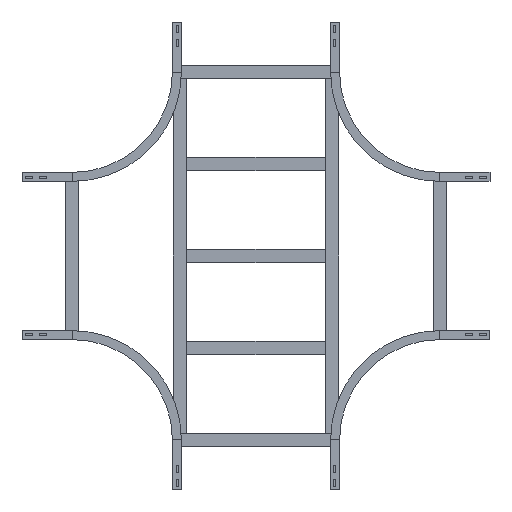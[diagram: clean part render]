
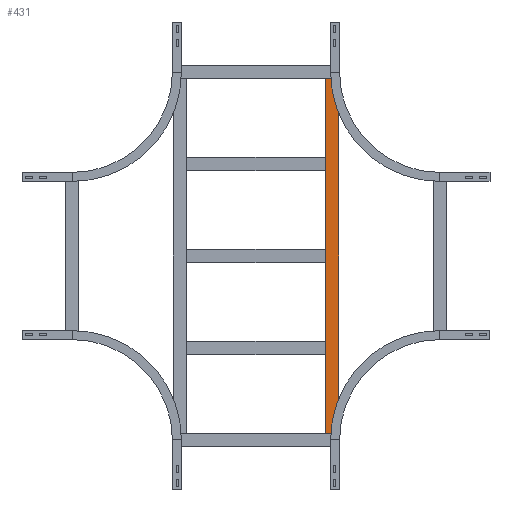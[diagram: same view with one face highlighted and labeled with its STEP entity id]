
A CAD part, front view. The second image highlights one B-rep face of the part: STEP entity #431.
In plain terms, the highlighted planar face has unit normal (0, -1, 0).
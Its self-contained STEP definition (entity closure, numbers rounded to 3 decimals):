
#50 = CARTESIAN_POINT ( 'NONE',  ( 529.75, 0., 20.25 ) ) ;
#107 = ORIENTED_EDGE ( 'NONE', *, *, #2169, .F. ) ;
#123 = CARTESIAN_POINT ( 'NONE',  ( -529.75, 0., 20.25 ) ) ;
#164 = CARTESIAN_POINT ( 'NONE',  ( -529.75, 0., 20.25 ) ) ;
#236 = DIRECTION ( 'NONE',  ( -1., 0., 0. ) ) ;
#335 = AXIS2_PLACEMENT_3D ( 'NONE', #527, #2269, #1939 ) ;
#405 = VERTEX_POINT ( 'NONE', #164 ) ;
#431 = ADVANCED_FACE ( 'NONE', ( #2463 ), #1156, .F. ) ;
#496 = VECTOR ( 'NONE', #1931, 1000. ) ;
#497 = CARTESIAN_POINT ( 'NONE',  ( 529.75, 0., 20.25 ) ) ;
#527 = CARTESIAN_POINT ( 'NONE',  ( 529.75, 0., 20.25 ) ) ;
#629 = EDGE_LOOP ( 'NONE', ( #1071, #1266, #107, #2057 ) ) ;
#666 = LINE ( 'NONE', #1433, #2367 ) ;
#957 = VECTOR ( 'NONE', #2435, 1000. ) ;
#1071 = ORIENTED_EDGE ( 'NONE', *, *, #1618, .T. ) ;
#1156 = PLANE ( 'NONE',  #335 ) ;
#1237 = EDGE_CURVE ( 'NONE', #1700, #405, #1779, .T. ) ;
#1266 = ORIENTED_EDGE ( 'NONE', *, *, #1878, .F. ) ;
#1433 = CARTESIAN_POINT ( 'NONE',  ( 529.75, 0., -20.25 ) ) ;
#1497 = LINE ( 'NONE', #123, #957 ) ;
#1578 = VERTEX_POINT ( 'NONE', #2421 ) ;
#1618 = EDGE_CURVE ( 'NONE', #405, #1578, #1497, .T. ) ;
#1683 = LINE ( 'NONE', #497, #1967 ) ;
#1700 = VERTEX_POINT ( 'NONE', #2292 ) ;
#1779 = LINE ( 'NONE', #50, #496 ) ;
#1878 = EDGE_CURVE ( 'NONE', #2312, #1578, #666, .T. ) ;
#1931 = DIRECTION ( 'NONE',  ( -1., 0., 0. ) ) ;
#1939 = DIRECTION ( 'NONE',  ( 0., 0., 1. ) ) ;
#1967 = VECTOR ( 'NONE', #2247, 1000. ) ;
#2057 = ORIENTED_EDGE ( 'NONE', *, *, #1237, .T. ) ;
#2078 = CARTESIAN_POINT ( 'NONE',  ( 529.75, 0., -20.25 ) ) ;
#2169 = EDGE_CURVE ( 'NONE', #1700, #2312, #1683, .T. ) ;
#2247 = DIRECTION ( 'NONE',  ( 0., 0., -1. ) ) ;
#2269 = DIRECTION ( 'NONE',  ( 0., 1., 0. ) ) ;
#2292 = CARTESIAN_POINT ( 'NONE',  ( 529.75, 0., 20.25 ) ) ;
#2312 = VERTEX_POINT ( 'NONE', #2078 ) ;
#2367 = VECTOR ( 'NONE', #236, 1000. ) ;
#2421 = CARTESIAN_POINT ( 'NONE',  ( -529.75, 0., -20.25 ) ) ;
#2435 = DIRECTION ( 'NONE',  ( 0., 0., -1. ) ) ;
#2463 = FACE_OUTER_BOUND ( 'NONE', #629, .T. ) ;
